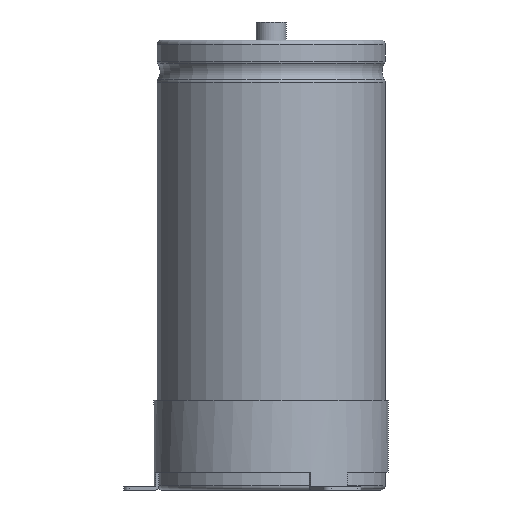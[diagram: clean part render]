
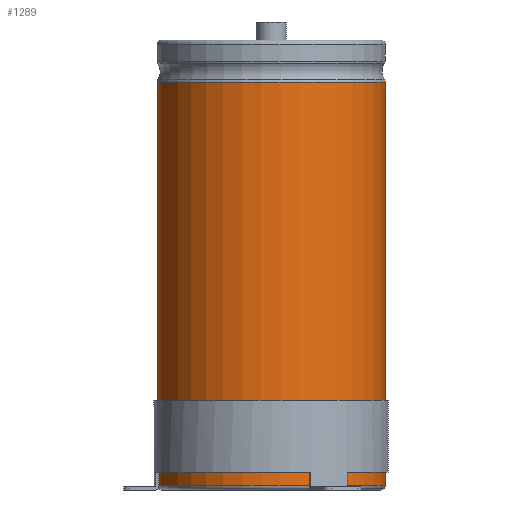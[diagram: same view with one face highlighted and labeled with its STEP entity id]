
A CAD part, front view. The second image highlights one B-rep face of the part: STEP entity #1289.
In plain terms, the highlighted cylindrical face has radius 38.1 mm (diameter 76.2 mm), a partial arc.
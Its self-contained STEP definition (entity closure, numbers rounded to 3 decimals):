
#233=LINE('',#6601,#447);
#234=LINE('',#6605,#448);
#447=VECTOR('',#5224,1.);
#448=VECTOR('',#5227,1.);
#695=FACE_OUTER_BOUND('',#1741,.T.);
#1289=ADVANCED_FACE('',(#695),#1519,.T.);
#1519=CYLINDRICAL_SURFACE('',#4585,38.1);
#1741=EDGE_LOOP('',(#2147,#2148,#2149,#2150));
#2147=ORIENTED_EDGE('',*,*,#3702,.T.);
#2148=ORIENTED_EDGE('',*,*,#3703,.T.);
#2149=ORIENTED_EDGE('',*,*,#3704,.F.);
#2150=ORIENTED_EDGE('',*,*,#3705,.F.);
#3274=VERTEX_POINT('',#6594);
#3276=VERTEX_POINT('',#6598);
#3277=VERTEX_POINT('',#6602);
#3278=VERTEX_POINT('',#6604);
#3702=EDGE_CURVE('',#3274,#3276,#4267,.T.);
#3703=EDGE_CURVE('',#3276,#3277,#233,.T.);
#3704=EDGE_CURVE('',#3278,#3277,#4268,.T.);
#3705=EDGE_CURVE('',#3274,#3278,#234,.T.);
#4267=CIRCLE('',#4582,38.1);
#4268=CIRCLE('',#4584,38.1);
#4582=AXIS2_PLACEMENT_3D('',#6599,#5220,#5221);
#4584=AXIS2_PLACEMENT_3D('',#6603,#5225,#5226);
#4585=AXIS2_PLACEMENT_3D('',#6606,#5228,#5229);
#5220=DIRECTION('',(0.,0.,-1.));
#5221=DIRECTION('',(0.,1.,0.));
#5224=DIRECTION('',(0.,0.,-1.));
#5225=DIRECTION('',(0.,0.,-1.));
#5226=DIRECTION('',(0.,1.,0.));
#5227=DIRECTION('',(0.,0.,-1.));
#5228=DIRECTION('',(0.,0.,-1.));
#5229=DIRECTION('',(0.,1.,0.));
#6594=CARTESIAN_POINT('',(3.983,37.891,135.9));
#6598=CARTESIAN_POINT('',(-3.983,37.891,135.9));
#6599=CARTESIAN_POINT('',(0.,0.,135.9));
#6601=CARTESIAN_POINT('',(-3.983,37.891,135.9));
#6602=CARTESIAN_POINT('',(-3.983,37.891,1.5));
#6603=CARTESIAN_POINT('',(0.,0.,1.5));
#6604=CARTESIAN_POINT('',(3.983,37.891,1.5));
#6605=CARTESIAN_POINT('',(3.983,37.891,135.9));
#6606=CARTESIAN_POINT('',(0.,0.,0.));
